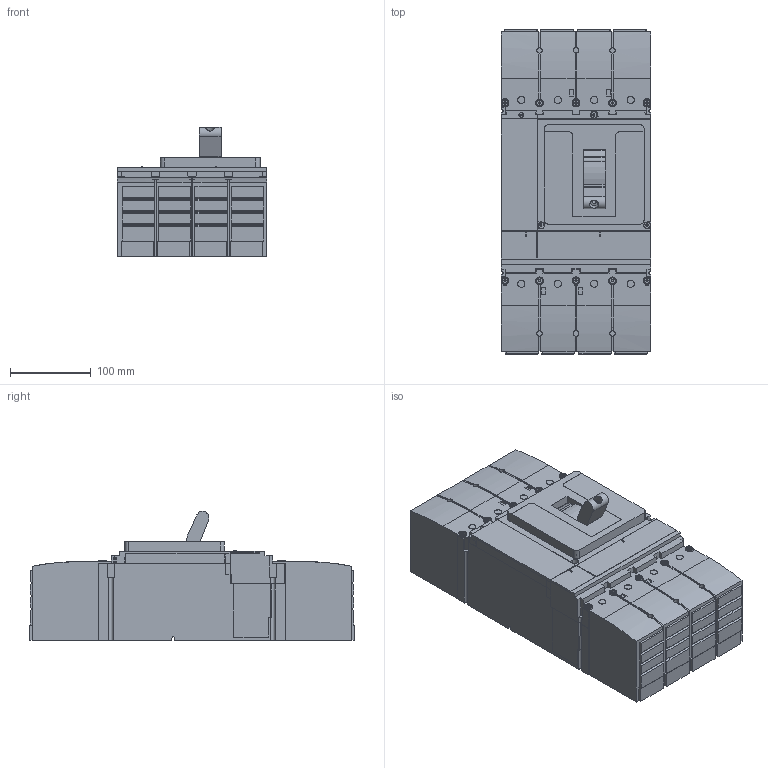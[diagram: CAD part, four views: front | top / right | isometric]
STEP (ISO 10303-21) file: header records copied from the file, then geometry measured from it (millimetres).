
FILE_DESCRIPTION((''),'2;1');
FILE_NAME('1676273502999_ASM','2023-02-13T13:02:07',('SESA540900'),('Schneider-Electric'),'CREO PARAMETRIC BY PTC INC, 2021284','CREO PARAMETRIC BY PTC INC, 2021284','');
FILE_SCHEMA(('AP242_MANAGED_MODEL_BASED_3D_ENGINEERING_MIM_LF { 1 0 10303 442 1 1 4 }'));
Products named in the file (13): EMPTYNODE_1676273503025_ASM; BASEFRAME-3D; C63L4-BASEFRAME-3D_ASM; C63L4-FRONTCOVER; C63L4-FRONTCOVER-3D_ASM; C63L3-FRONTCOVER; C63L3-FRONTCOVER-3D_ASM; C40K42D250-TRIPUNIT; C40K42D250-TRIPUNIT-3D_ASM; TERMINAL-SHIELD-4P; TERMINAL-SHIELD-4P-BTM-3D_ASM; TERMINAL-SHIELD-4P-TOP-3D_ASM; 1676273502999_ASM
Assembly tree (13 placements, depth 3):
  1676273502999_ASM
    EMPTYNODE_1676273503025_ASM
    C63L4-BASEFRAME-3D_ASM
      BASEFRAME-3D
    C63L4-FRONTCOVER-3D_ASM
      C63L4-FRONTCOVER
    C63L3-FRONTCOVER-3D_ASM
      C63L3-FRONTCOVER
    C40K42D250-TRIPUNIT-3D_ASM
      C40K42D250-TRIPUNIT
    TERMINAL-SHIELD-4P-BTM-3D_ASM
      TERMINAL-SHIELD-4P
    TERMINAL-SHIELD-4P-TOP-3D_ASM
      TERMINAL-SHIELD-4P
Bounding box: 184.7 x 400.8 x 159.59 mm (x, y, z)
Volume: 4567134.9 mm3; surface area: 938841.4 mm2
Topology: 6 solids, 6 shells, 2899 faces, 8109 edges, 5368 vertices
Faces by surface type: plane 2389, cylinder 476, extrusion 26, cone 8
Entity records: 109150 total; most frequent: CARTESIAN_POINT 15475, ORIENTED_EDGE 14264, DIRECTION 13120, PRESENTATION_STYLE_ASSIGNMENT 7560, STYLED_ITEM 7139, CURVE_STYLE 7134, EDGE_CURVE 7132, VECTOR 6144
